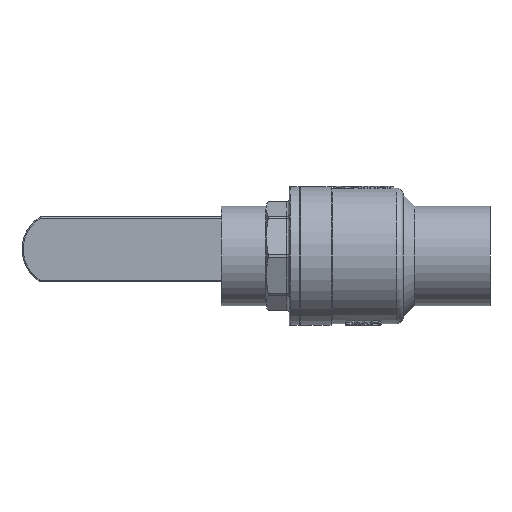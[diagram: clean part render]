
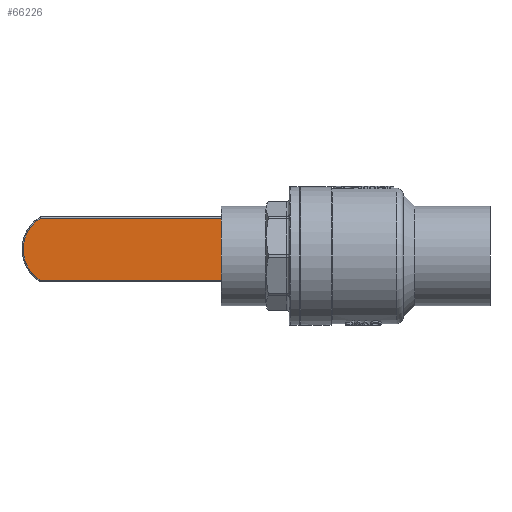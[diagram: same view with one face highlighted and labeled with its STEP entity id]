
A CAD part, front view. The second image highlights one B-rep face of the part: STEP entity #66226.
In plain terms, the highlighted planar face has unit normal (0, -1, 0).
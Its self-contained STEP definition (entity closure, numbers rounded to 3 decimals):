
#632 = PLANE ( 'NONE',  #87735 ) ;
#5768 = DIRECTION ( 'NONE',  ( 0., -1., 0. ) ) ;
#6749 = VECTOR ( 'NONE', #91788, 1000. ) ;
#9041 = ORIENTED_EDGE ( 'NONE', *, *, #28574, .T. ) ;
#10237 = DIRECTION ( 'NONE',  ( 0., 0., 1. ) ) ;
#10650 = DIRECTION ( 'NONE',  ( 0., 1., 0. ) ) ;
#11030 = EDGE_CURVE ( 'NONE', #92540, #37779, #55610, .T. ) ;
#14341 = VECTOR ( 'NONE', #96365, 1000. ) ;
#22135 = CARTESIAN_POINT ( 'NONE',  ( 44.718, 22., -13.15 ) ) ;
#25400 = ORIENTED_EDGE ( 'NONE', *, *, #54767, .T. ) ;
#25846 = LINE ( 'NONE', #116336, #14341 ) ;
#28221 = ORIENTED_EDGE ( 'NONE', *, *, #11030, .T. ) ;
#28574 = EDGE_CURVE ( 'NONE', #33358, #53434, #70155, .T. ) ;
#31266 = VECTOR ( 'NONE', #113805, 1000. ) ;
#33358 = VERTEX_POINT ( 'NONE', #74642 ) ;
#37739 = FACE_OUTER_BOUND ( 'NONE', #79794, .T. ) ;
#37779 = VERTEX_POINT ( 'NONE', #59238 ) ;
#44531 = DIRECTION ( 'NONE',  ( 0., 0., 1. ) ) ;
#49689 = CARTESIAN_POINT ( 'NONE',  ( 45.218, 22., 12.65 ) ) ;
#53434 = VERTEX_POINT ( 'NONE', #117024 ) ;
#54767 = EDGE_CURVE ( 'NONE', #37779, #33358, #79852, .T. ) ;
#55610 = LINE ( 'NONE', #49689, #31266 ) ;
#59238 = CARTESIAN_POINT ( 'NONE',  ( 45.218, 22., -13.15 ) ) ;
#65528 = CARTESIAN_POINT ( 'NONE',  ( 44.718, 22., 12.65 ) ) ;
#65676 = ORIENTED_EDGE ( 'NONE', *, *, #89825, .T. ) ;
#66226 = ADVANCED_FACE ( 'NONE', ( #37739 ), #632, .F. ) ;
#70155 = CIRCLE ( 'NONE', #81426, 15.5 ) ;
#74642 = CARTESIAN_POINT ( 'NONE',  ( 133.205, 22., -13.15 ) ) ;
#79794 = EDGE_LOOP ( 'NONE', ( #65676, #28221, #25400, #9041 ) ) ;
#79852 = LINE ( 'NONE', #22135, #6749 ) ;
#81426 = AXIS2_PLACEMENT_3D ( 'NONE', #105883, #5768, #44531 ) ;
#87735 = AXIS2_PLACEMENT_3D ( 'NONE', #65528, #10650, #10237 ) ;
#89825 = EDGE_CURVE ( 'NONE', #53434, #92540, #25846, .T. ) ;
#91788 = DIRECTION ( 'NONE',  ( 1., 0., 0. ) ) ;
#92540 = VERTEX_POINT ( 'NONE', #94518 ) ;
#94518 = CARTESIAN_POINT ( 'NONE',  ( 45.218, 22., 13.15 ) ) ;
#96365 = DIRECTION ( 'NONE',  ( -1., 0., 0. ) ) ;
#105883 = CARTESIAN_POINT ( 'NONE',  ( 125., 22., 0. ) ) ;
#113805 = DIRECTION ( 'NONE',  ( 0., 0., -1. ) ) ;
#116336 = CARTESIAN_POINT ( 'NONE',  ( 44.718, 22., 13.15 ) ) ;
#117024 = CARTESIAN_POINT ( 'NONE',  ( 133.205, 22., 13.15 ) ) ;
